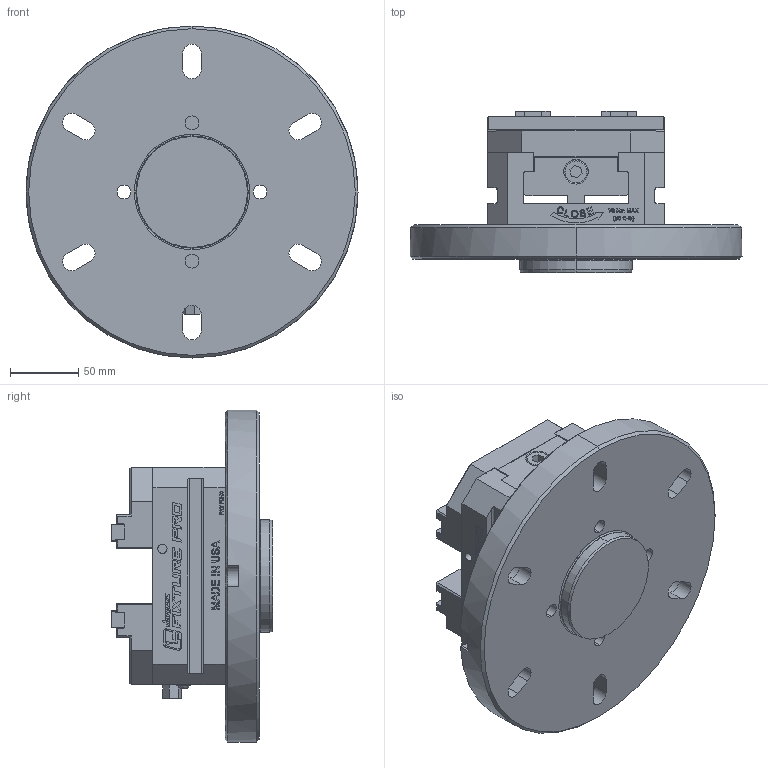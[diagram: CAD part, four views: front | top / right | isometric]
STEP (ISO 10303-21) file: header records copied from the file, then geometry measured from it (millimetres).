
FILE_DESCRIPTION (( 'STEP AP214' ), '1' );
FILE_NAME ('05-0400_05-0204.STEP', '2022-11-10T17:09:24', ( '' ), ( '' ), 'SwSTEP 2.0', 'SolidWorks 2021', '' );
FILE_SCHEMA (( 'AUTOMOTIVE_DESIGN' ));
Length unit declared in the file: inch
Products named in the file (3): 05-0400_05-0204; 05-0400; 05-0204
Assembly tree (2 placements, depth 2):
  05-0400_05-0204
    05-0204
    05-0400
Bounding box: 244 x 118.56 x 244 mm (x, y, z)
Volume: 1129552.7 mm3; surface area: 295747.6 mm2
Topology: 1 solids, 278 shells, 2501 faces, 9239 edges, 6943 vertices
Faces by surface type: plane 1897, bspline 269, cylinder 251, cone 80, torus 4
Entity records: 147293 total; most frequent: CARTESIAN_POINT 42548, ORIENTED_EDGE 13593, DIRECTION 13428, EDGE_CURVE 9239, LINE 7252, VECTOR 7252, VERTEX_POINT 6943, AXIS2_PLACEMENT_3D 3088
